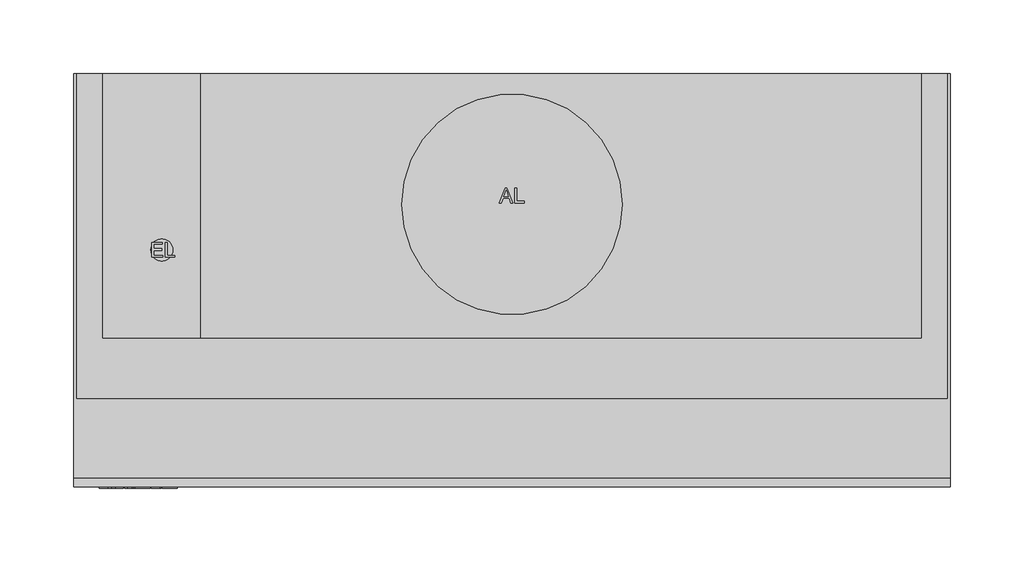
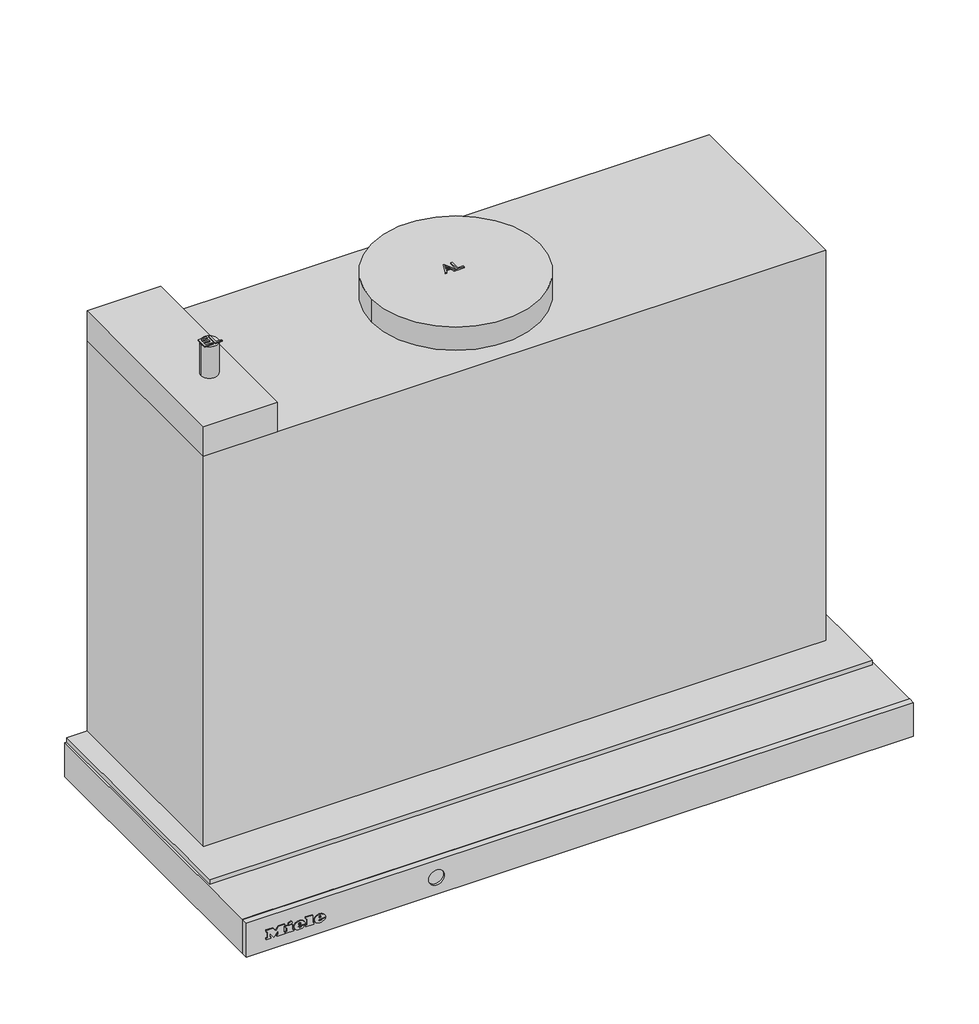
# Not in any storey: 1 proxy.
"""IFC4 building model written with IfcOpenShell, lengths in millimetres."""

from ifc_helpers import new_model, si_unit, origin, place, context, project, spatial, transform, mapped, element, save
from components import specialty_equipment_66e986f9

model = new_model("IFC4")

# Units and contexts
model_context = context("Model", 3, world=origin())
ifc_project = project(units=[si_unit("LENGTHUNIT", "METRE", prefix="MILLI")], contexts=[model_context])

# Site, building
site = spatial("IfcSite", under=ifc_project)
building = spatial("IfcBuilding", under=site)

# Proxy
placement = place(None, origin())
specialty_equipment_shape = specialty_equipment_66e986f9(model_context)
element("IfcBuildingElementProxy", 1, Name="12491120_RU_DAS4631_OBSW : 28S4631B_RU_12491120_DAS4631_OBSW", ObjectType="12491120_RU_DAS4631_OBSW : 28S4631B_RU_12491120_DAS4631_OBSW", at=placement, inside=building, context=model_context, shape_type="MappedRepresentation", body=[
    mapped(specialty_equipment_shape, transform((0.0, 0.0, 0.0), x_axis=(1.0, 0.0, 0.0), y_axis=(0.0, 1.0, 0.0), z_axis=(0.0, 0.0, 1.0))),
])

save(model, "model.ifc")
